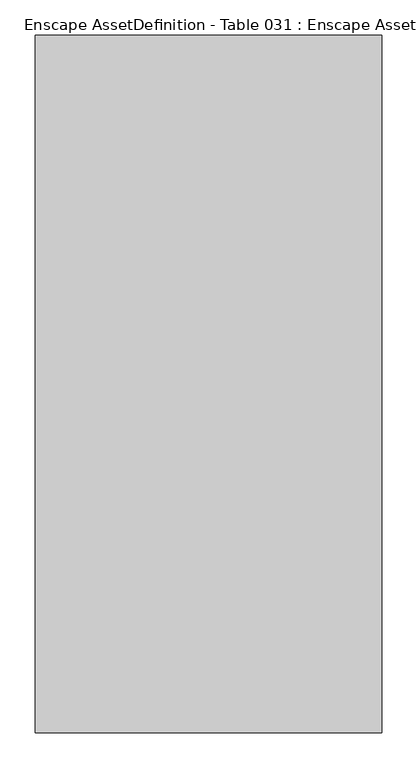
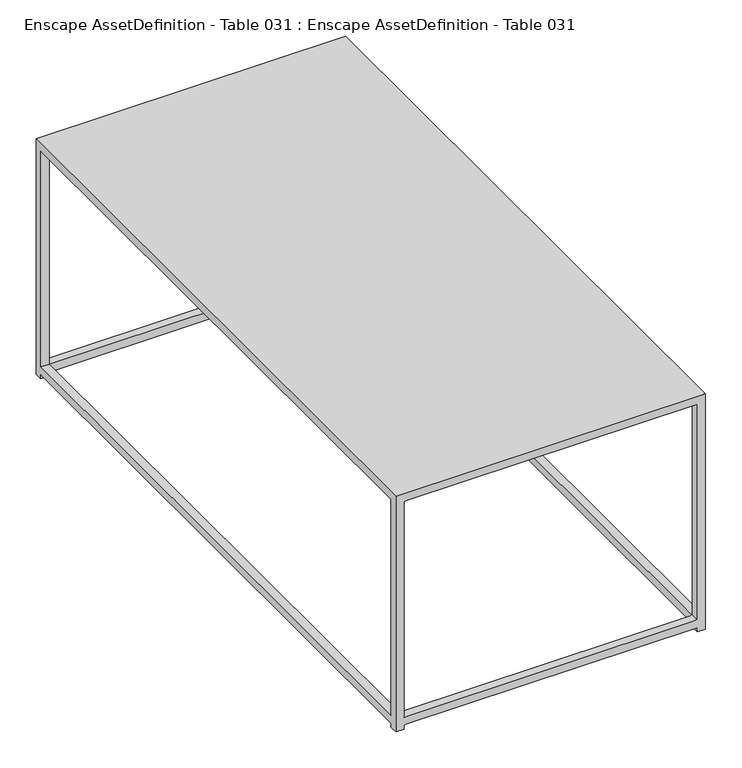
"""IFC4 building model written with IfcOpenShell, lengths in millimetres: geographic element geometry, Enscape AssetDefinition - Table 031 : Enscape AssetDefinition - Table 031."""

from ifc_helpers import new_model, si_unit, origin, place, context, project, spatial, triangles, source, transform, mapped, element, save


def enscape_assetdefinition_table_031_enscape_assetdefinition_3ed2c79c(model_context):
    return source(origin(), model_context, "Body", "Tessellation", [
        triangles([(233.9359933, 483.9360134, 383.9359763), (233.9359933, 496.9140003, 383.9359763), (246.9139984, 496.9140003, 383.9359763), (246.9139984, 483.9360134, 20.1670012), (246.9139984, 483.9360134, 383.9359763), (233.9359933, 483.9360134, 0.0), (246.9139984, 483.9360134, 6.8389999), (233.9359933, 483.9360134, 7.014), (246.9139984, -483.9360134, 6.8389999), (246.9139984, -483.9360134, 0.0), (233.9359933, -483.9360134, 0.0), (233.9359933, -496.9140003, 7.014), (233.9359933, -496.9140003, 0.0), (246.9139984, -496.9140003, 0.0), (233.9359933, -496.9140003, 20.1670012), (-233.9359933, -496.9140003, 7.014), (-233.9359933, -483.9360134, 7.014), (-233.9359933, -496.9140003, 20.1670012), (-246.9139984, -496.9140003, 0.0), (-233.9359933, -496.9140003, 0.0), (-233.9359933, -483.9360134, 0.0), (-246.9139984, -483.9360134, 0.0), (-246.9139984, -483.9360134, 6.8389999), (-246.9139984, 483.9360134, 20.1670012), (-246.9139984, 483.9360134, 6.8389999), (-246.9139984, 483.9360134, 383.9359763), (-246.9139984, 496.9140003, 383.9359763), (-233.9359933, 483.9360134, 20.1670012), (-233.9359933, 483.9360134, 383.9359763), (-233.9359933, 496.9140003, 383.9359763), (-246.9139984, 496.9140003, 0.0), (-246.9139984, 496.9140003, 396.9139996), (-233.9359933, 496.9140003, 20.1670012), (233.9359933, 496.9140003, 20.1670012), (-233.9359933, 496.9140003, 7.014), (233.9359933, 483.9360134, 20.1670012), (246.9139984, -483.9360134, 20.1670012), (233.9359933, -483.9360134, 383.9359763), (233.9359933, -496.9140003, 383.9359763), (-233.9359933, -483.9360134, 383.9359763), (-233.9359933, -496.9140003, 383.9359763), (-233.9359933, -483.9360134, 20.1670012), (-246.9139984, -496.9140003, 396.9139996), (-246.9139984, -483.9360134, 383.9359763), (-246.9139984, -483.9360134, 20.1670012), (-233.9359933, 483.9360134, 7.014), (-233.9359933, 496.9140003, 0.0), (233.9359933, 496.9140003, 0.0), (233.9359933, 496.9140003, 7.014), (246.9139984, 496.9140003, 0.0), (246.9139984, 483.9360134, 0.0), (233.9359933, -483.9360134, 7.014), (233.9359933, -483.9360134, 20.1670012), (246.9139984, -496.9140003, 396.9139996), (246.9139984, 496.9140003, 396.9139996), (246.9139984, -483.9360134, 383.9359763), (-246.9139984, 483.9360134, 0.0), (-233.9359933, 483.9360134, 0.0)], [[57, 47, 58], [57, 31, 47], [31, 57, 25], [25, 57, 58], [56, 54, 14], [56, 55, 54], [54, 15, 14], [52, 17, 42], [53, 18, 15], [53, 42, 18], [52, 42, 53], [53, 8, 52], [8, 48, 6], [51, 48, 50], [51, 6, 48], [49, 50, 48], [8, 49, 48], [17, 25, 46], [42, 17, 46], [46, 58, 47], [25, 58, 46], [46, 49, 8], [42, 46, 28], [28, 46, 8], [45, 42, 28], [44, 45, 19], [44, 19, 43], [43, 19, 18], [55, 43, 54], [43, 18, 41], [41, 18, 42], [54, 43, 41], [40, 45, 44], [40, 42, 45], [41, 42, 40], [39, 41, 40], [54, 39, 15], [39, 53, 15], [54, 41, 39], [39, 40, 38], [39, 38, 53], [56, 14, 37], [38, 37, 53], [38, 56, 37], [53, 36, 8], [28, 8, 36], [37, 36, 53], [1, 34, 36], [49, 34, 50], [35, 47, 31], [46, 47, 35], [35, 34, 49], [46, 35, 49], [33, 36, 34], [33, 28, 36], [35, 31, 33], [35, 33, 34], [29, 28, 33], [38, 29, 1], [38, 40, 29], [30, 33, 31], [29, 33, 30], [44, 43, 32], [30, 32, 55], [55, 32, 43], [30, 31, 27], [30, 27, 32], [40, 26, 29], [40, 44, 26], [32, 27, 26], [26, 28, 29], [44, 32, 26], [27, 24, 26], [27, 31, 24], [26, 24, 28], [31, 25, 24], [45, 28, 24], [17, 23, 25], [23, 24, 25], [23, 45, 24], [19, 45, 23], [23, 22, 19], [17, 22, 23], [17, 21, 22], [19, 22, 21], [19, 21, 20], [16, 21, 17], [16, 20, 21], [19, 20, 16], [18, 19, 16], [15, 18, 16], [12, 17, 52], [12, 16, 17], [15, 16, 12], [15, 12, 14], [14, 12, 13], [12, 11, 13], [12, 52, 11], [14, 13, 11], [52, 10, 11], [14, 11, 10], [9, 14, 10], [52, 9, 10], [14, 9, 37], [52, 7, 9], [52, 8, 7], [50, 7, 51], [7, 6, 51], [7, 8, 6], [9, 4, 37], [9, 7, 4], [50, 4, 7], [37, 4, 36], [38, 5, 56], [38, 1, 5], [5, 36, 4], [5, 1, 36], [56, 5, 55], [55, 5, 3], [3, 4, 50], [3, 5, 4], [30, 55, 2], [2, 50, 34], [2, 3, 50], [29, 2, 1], [29, 30, 2], [1, 2, 34], [2, 55, 3]]),
    ])


if __name__ == "__main__":
    model = new_model("IFC4")
    model_context = context("Model", 3, world=origin())
    ifc_project = project(units=[si_unit("LENGTHUNIT", "METRE", prefix="MILLI")], contexts=[model_context])
    site = spatial("IfcSite", under=ifc_project)
    building = spatial("IfcBuilding", under=site)
    placement = place(None, origin())
    enscape_assetdefinition_table_031_enscape_assetdefinition_shape = enscape_assetdefinition_table_031_enscape_assetdefinition_3ed2c79c(model_context)
    element("IfcGeographicElement", 1, ObjectType="Enscape AssetDefinition - Table 031 : Enscape AssetDefinition - Table 031", at=placement, inside=building, context=model_context, shape_type="MappedRepresentation", body=[
        mapped(enscape_assetdefinition_table_031_enscape_assetdefinition_shape, transform((0.0, 0.0, 0.0), x_axis=(1.0, 0.0, 0.0), y_axis=(0.0, 1.0, 0.0), z_axis=(0.0, 0.0, 1.0))),
    ])
    save(model, "model.ifc")
